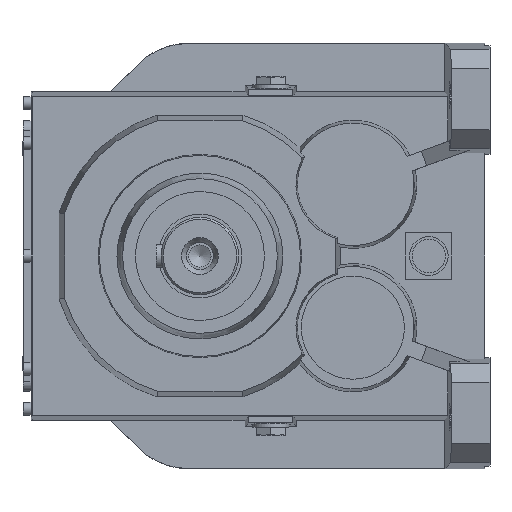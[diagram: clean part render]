
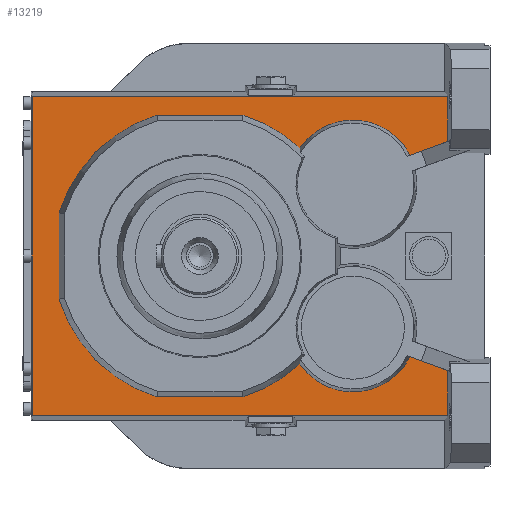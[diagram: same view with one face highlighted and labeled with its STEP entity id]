
A CAD part, left-side view. The second image highlights one B-rep face of the part: STEP entity #13219.
In plain terms, the highlighted planar face has unit normal (-1, 0, 0) as drawn and (1, 0, 0) by its records, which use the part's own axes.
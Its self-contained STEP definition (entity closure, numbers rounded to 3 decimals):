
#180=LINE('',#17608,#1130);
#181=LINE('',#17628,#1131);
#182=LINE('',#17629,#1132);
#183=LINE('',#17631,#1133);
#184=LINE('',#17633,#1134);
#185=LINE('',#17635,#1135);
#186=LINE('',#17637,#1136);
#187=LINE('',#17640,#1137);
#188=LINE('',#17644,#1138);
#189=LINE('',#17648,#1139);
#1130=VECTOR('',#14765,1000.);
#1131=VECTOR('',#14776,1000.);
#1132=VECTOR('',#14777,1000.);
#1133=VECTOR('',#14778,1000.);
#1134=VECTOR('',#14779,1000.);
#1135=VECTOR('',#14780,1000.);
#1136=VECTOR('',#14781,1000.);
#1137=VECTOR('',#14784,1000.);
#1138=VECTOR('',#14787,1000.);
#1139=VECTOR('',#14790,1000.);
#2058=PLANE('',#13824);
#2478=CIRCLE('',#13823,49.775);
#2479=CIRCLE('',#13825,49.775);
#2480=CIRCLE('',#13826,114.156);
#2481=CIRCLE('',#13827,114.156);
#2482=CIRCLE('',#13828,114.156);
#2483=CIRCLE('',#13829,114.156);
#2839=ORIENTED_EDGE('',*,*,#5564,.T.);
#2840=ORIENTED_EDGE('',*,*,#5565,.F.);
#2841=ORIENTED_EDGE('',*,*,#5559,.T.);
#2842=ORIENTED_EDGE('',*,*,#5566,.T.);
#2843=ORIENTED_EDGE('',*,*,#5567,.F.);
#2844=ORIENTED_EDGE('',*,*,#5568,.F.);
#2845=ORIENTED_EDGE('',*,*,#5569,.T.);
#2846=ORIENTED_EDGE('',*,*,#5570,.T.);
#2847=ORIENTED_EDGE('',*,*,#5563,.T.);
#2848=ORIENTED_EDGE('',*,*,#5571,.F.);
#2849=ORIENTED_EDGE('',*,*,#5572,.F.);
#2850=ORIENTED_EDGE('',*,*,#5573,.F.);
#2851=ORIENTED_EDGE('',*,*,#5574,.T.);
#2852=ORIENTED_EDGE('',*,*,#5575,.F.);
#2853=ORIENTED_EDGE('',*,*,#5576,.T.);
#2854=ORIENTED_EDGE('',*,*,#5577,.F.);
#5559=EDGE_CURVE('',#6904,#6910,#180,.T.);
#5563=EDGE_CURVE('',#6912,#6914,#2478,.T.);
#5564=EDGE_CURVE('',#6915,#6916,#2479,.T.);
#5565=EDGE_CURVE('',#6904,#6916,#181,.T.);
#5566=EDGE_CURVE('',#6910,#6917,#182,.T.);
#5567=EDGE_CURVE('',#6918,#6917,#183,.T.);
#5568=EDGE_CURVE('',#6919,#6918,#184,.T.);
#5569=EDGE_CURVE('',#6919,#6920,#185,.T.);
#5570=EDGE_CURVE('',#6920,#6912,#186,.T.);
#5571=EDGE_CURVE('',#6921,#6914,#2480,.T.);
#5572=EDGE_CURVE('',#6922,#6921,#187,.T.);
#5573=EDGE_CURVE('',#6923,#6922,#2481,.T.);
#5574=EDGE_CURVE('',#6923,#6924,#188,.T.);
#5575=EDGE_CURVE('',#6925,#6924,#2482,.T.);
#5576=EDGE_CURVE('',#6925,#6926,#189,.T.);
#5577=EDGE_CURVE('',#6915,#6926,#2483,.T.);
#6904=VERTEX_POINT('',#17594);
#6910=VERTEX_POINT('',#17607);
#6912=VERTEX_POINT('',#17615);
#6914=VERTEX_POINT('',#17622);
#6915=VERTEX_POINT('',#17626);
#6916=VERTEX_POINT('',#17627);
#6917=VERTEX_POINT('',#17630);
#6918=VERTEX_POINT('',#17632);
#6919=VERTEX_POINT('',#17634);
#6920=VERTEX_POINT('',#17636);
#6921=VERTEX_POINT('',#17639);
#6922=VERTEX_POINT('',#17641);
#6923=VERTEX_POINT('',#17643);
#6924=VERTEX_POINT('',#17645);
#6925=VERTEX_POINT('',#17647);
#6926=VERTEX_POINT('',#17649);
#7913=EDGE_LOOP('',(#2839,#2840,#2841,#2842,#2843,#2844,#2845,#2846,#2847,
#2848,#2849,#2850,#2851,#2852,#2853,#2854));
#8624=FACE_BOUND('',#7913,.T.);
#13219=ADVANCED_FACE('',(#8624),#2058,.F.);
#13823=AXIS2_PLACEMENT_3D('',#17623,#14770,#14771);
#13824=AXIS2_PLACEMENT_3D('',#17624,#14772,#14773);
#13825=AXIS2_PLACEMENT_3D('',#17625,#14774,#14775);
#13826=AXIS2_PLACEMENT_3D('',#17638,#14782,#14783);
#13827=AXIS2_PLACEMENT_3D('',#17642,#14785,#14786);
#13828=AXIS2_PLACEMENT_3D('',#17646,#14788,#14789);
#13829=AXIS2_PLACEMENT_3D('',#17650,#14791,#14792);
#14765=DIRECTION('',(0.,0.,-1.));
#14770=DIRECTION('',(-1.,0.,0.));
#14771=DIRECTION('',(0.,0.,1.));
#14772=DIRECTION('',(-1.,0.,0.));
#14773=DIRECTION('',(0.,0.,1.));
#14774=DIRECTION('',(-1.,0.,0.));
#14775=DIRECTION('',(0.,0.,1.));
#14776=DIRECTION('',(0.,0.94,0.342));
#14777=DIRECTION('',(0.,1.,0.));
#14778=DIRECTION('',(0.,0.,-1.));
#14779=DIRECTION('',(0.,1.,0.));
#14780=DIRECTION('',(0.,0.,-1.));
#14781=DIRECTION('',(0.,0.94,-0.342));
#14782=DIRECTION('',(1.,0.,0.));
#14783=DIRECTION('',(0.,0.,-1.));
#14784=DIRECTION('',(0.,-1.,0.));
#14785=DIRECTION('',(1.,0.,0.));
#14786=DIRECTION('',(0.,0.,-1.));
#14787=DIRECTION('',(0.,0.,-1.));
#14788=DIRECTION('',(1.,0.,0.));
#14789=DIRECTION('',(0.,0.,-1.));
#14790=DIRECTION('',(0.,-1.,0.));
#14791=DIRECTION('',(1.,0.,0.));
#14792=DIRECTION('',(0.,0.,-1.));
#17594=CARTESIAN_POINT('',(229.,-192.398,-88.856));
#17607=CARTESIAN_POINT('',(229.,-192.398,-123.7));
#17608=CARTESIAN_POINT('',(229.,-192.398,200.));
#17615=CARTESIAN_POINT('',(229.,-162.989,78.152));
#17622=CARTESIAN_POINT('',(229.,-77.559,83.763));
#17623=CARTESIAN_POINT('',(229.,-118.609,55.614));
#17624=CARTESIAN_POINT('',(229.,-188.,79.999));
#17625=CARTESIAN_POINT('',(229.,-118.609,-55.614));
#17626=CARTESIAN_POINT('',(229.,-77.559,-83.763));
#17627=CARTESIAN_POINT('',(229.,-162.989,-78.152));
#17628=CARTESIAN_POINT('',(229.,-209.421,-95.051));
#17629=CARTESIAN_POINT('',(229.,-205.,-123.7));
#17630=CARTESIAN_POINT('',(229.,130.,-123.7));
#17631=CARTESIAN_POINT('',(229.,130.,123.7));
#17632=CARTESIAN_POINT('',(229.,130.,123.7));
#17633=CARTESIAN_POINT('',(229.,-205.,123.7));
#17634=CARTESIAN_POINT('',(229.,-192.398,123.7));
#17635=CARTESIAN_POINT('',(229.,-192.398,200.));
#17636=CARTESIAN_POINT('',(229.,-192.398,88.856));
#17637=CARTESIAN_POINT('',(229.,-209.421,95.051));
#17638=CARTESIAN_POINT('',(229.,0.,0.));
#17639=CARTESIAN_POINT('',(229.,-33.41,109.157));
#17640=CARTESIAN_POINT('',(229.,50.,109.157));
#17641=CARTESIAN_POINT('',(229.,33.41,109.157));
#17642=CARTESIAN_POINT('',(229.,0.,0.));
#17643=CARTESIAN_POINT('',(229.,109.157,33.41));
#17644=CARTESIAN_POINT('',(229.,109.157,50.));
#17645=CARTESIAN_POINT('',(229.,109.157,-33.41));
#17646=CARTESIAN_POINT('',(229.,0.,0.));
#17647=CARTESIAN_POINT('',(229.,33.41,-109.157));
#17648=CARTESIAN_POINT('',(229.,50.,-109.157));
#17649=CARTESIAN_POINT('',(229.,-33.41,-109.157));
#17650=CARTESIAN_POINT('',(229.,0.,0.));
